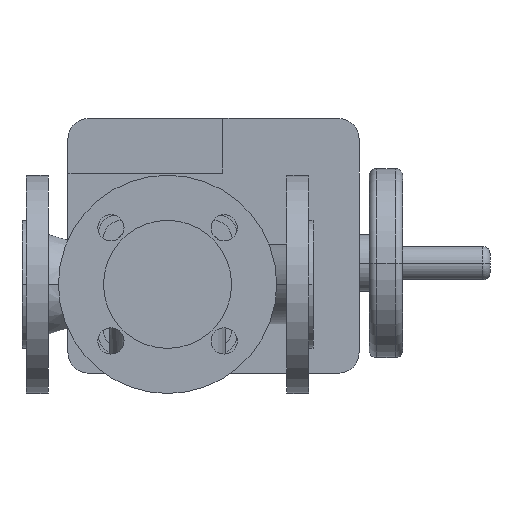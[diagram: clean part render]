
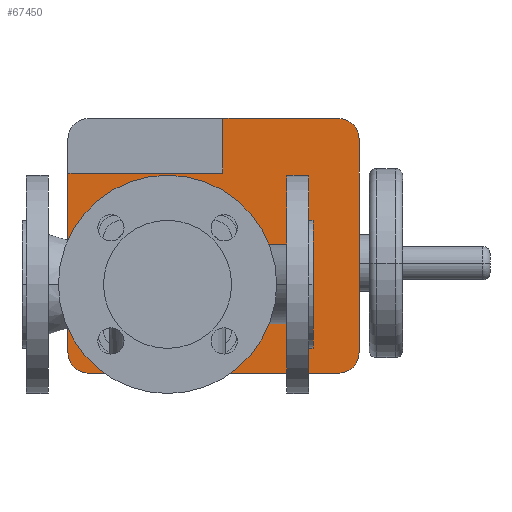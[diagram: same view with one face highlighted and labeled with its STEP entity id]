
A CAD part, front view. The second image highlights one B-rep face of the part: STEP entity #67450.
In plain terms, the highlighted planar face has unit normal (0, -1, 0).
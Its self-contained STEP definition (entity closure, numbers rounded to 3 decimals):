
#55600=CARTESIAN_POINT('',(45.6,584.5,-61.));
#55610=VERTEX_POINT('',#55600);
#55640=CARTESIAN_POINT('',(217.6,584.5,-61.));
#55650=DIRECTION('',(-1.,0.,0.));
#55660=VECTOR('',#55650,1.);
#55670=LINE('',#55640,#55660);
#55680=CARTESIAN_POINT('',(217.6,584.5,-61.));
#55690=VERTEX_POINT('',#55680);
#55700=EDGE_CURVE('',#55690,#55610,#55670,.T.);
#58430=CARTESIAN_POINT('',(217.6,584.5,114.));
#58440=VERTEX_POINT('',#58430);
#58470=CARTESIAN_POINT('',(45.6,584.5,114.));
#58480=DIRECTION('',(1.,0.,0.));
#58490=VECTOR('',#58480,1.);
#58500=LINE('',#58470,#58490);
#58510=CARTESIAN_POINT('',(138.1,584.5,114.));
#58520=VERTEX_POINT('',#58510);
#58530=EDGE_CURVE('',#58520,#58440,#58500,.T.);
#59030=CARTESIAN_POINT('',(217.6,584.5,-47.));
#59040=DIRECTION('',(0.,1.,0.));
#59050=DIRECTION('',(1.,0.,0.));
#59060=AXIS2_PLACEMENT_3D('',#59030,#59040,#59050);
#59070=CIRCLE('',#59060,14.);
#59080=CARTESIAN_POINT('',(231.6,584.5,-47.));
#59090=VERTEX_POINT('',#59080);
#59100=EDGE_CURVE('',#59090,#55690,#59070,.T.);
#61920=CARTESIAN_POINT('',(138.1,584.5,38.25));
#61930=DIRECTION('',(0.,0.,-1.));
#61940=VECTOR('',#61930,1.);
#61950=LINE('',#61920,#61940);
#61960=CARTESIAN_POINT('',(138.1,584.5,76.5));
#61970=VERTEX_POINT('',#61960);
#61980=EDGE_CURVE('',#58520,#61970,#61950,.T.);
#62890=CARTESIAN_POINT('',(47.058,584.5,49.002));
#62900=VERTEX_POINT('',#62890);
#62930=CARTESIAN_POINT('',(55.216,584.5,45.2));
#62940=DIRECTION('',(0.,1.,0.));
#62950=DIRECTION('',(-0.906,0.,0.422));
#62960=AXIS2_PLACEMENT_3D('',#62930,#62940,#62950);
#62970=CIRCLE('',#62960,9.);
#62980=CARTESIAN_POINT('',(55.216,584.5,54.2));
#62990=VERTEX_POINT('',#62980);
#63000=EDGE_CURVE('',#62900,#62990,#62970,.T.);
#63260=CARTESIAN_POINT('',(77.608,584.5,54.2));
#63270=DIRECTION('',(1.,0.,0.));
#63280=VECTOR('',#63270,1.);
#63290=LINE('',#63260,#63280);
#63300=CARTESIAN_POINT('',(144.784,584.5,54.2));
#63310=VERTEX_POINT('',#63300);
#63320=EDGE_CURVE('',#62990,#63310,#63290,.T.);
#63570=CARTESIAN_POINT('',(144.784,584.5,45.2));
#63580=DIRECTION('',(0.,1.,0.));
#63590=DIRECTION('',(0.,0.,1.));
#63600=AXIS2_PLACEMENT_3D('',#63570,#63580,#63590);
#63610=CIRCLE('',#63600,9.);
#63620=CARTESIAN_POINT('',(152.942,584.5,49.002));
#63630=VERTEX_POINT('',#63620);
#63640=EDGE_CURVE('',#63310,#63630,#63610,.T.);
#63900=CARTESIAN_POINT('',(47.8,584.5,0.)
);
#63910=DIRECTION('',(0.,1.,0.));
#63920=DIRECTION('',(0.906,0.,0.422));
#63930=AXIS2_PLACEMENT_3D('',#63900,#63910,#63920);
#63940=CIRCLE('',#63930,116.);
#63950=CARTESIAN_POINT('',(152.942,584.5,-49.002));
#63960=VERTEX_POINT('',#63950);
#63970=EDGE_CURVE('',#63630,#63960,#63940,.T.);
#64230=CARTESIAN_POINT('',(144.784,584.5,-45.2));
#64240=DIRECTION('',(0.,1.,0.));
#64250=DIRECTION('',(0.906,0.,-0.422));
#64260=AXIS2_PLACEMENT_3D('',#64230,#64240,#64250);
#64270=CIRCLE('',#64260,9.);
#64280=CARTESIAN_POINT('',(144.784,584.5,-54.2));
#64290=VERTEX_POINT('',#64280);
#64300=EDGE_CURVE('',#63960,#64290,#64270,.T.);
#64560=CARTESIAN_POINT('',(122.392,584.5,-54.2));
#64570=DIRECTION('',(-1.,0.,0.));
#64580=VECTOR('',#64570,1.);
#64590=LINE('',#64560,#64580);
#64600=CARTESIAN_POINT('',(55.216,584.5,-54.2));
#64610=VERTEX_POINT('',#64600);
#64620=EDGE_CURVE('',#64290,#64610,#64590,.T.);
#64870=CARTESIAN_POINT('',(55.216,584.5,-45.2));
#64880=DIRECTION('',(0.,1.,0.));
#64890=DIRECTION('',(0.,0.,-1.));
#64900=AXIS2_PLACEMENT_3D('',#64870,#64880,#64890);
#64910=CIRCLE('',#64900,9.);
#64920=CARTESIAN_POINT('',(47.058,584.5,-49.002));
#64930=VERTEX_POINT('',#64920);
#64940=EDGE_CURVE('',#64610,#64930,#64910,.T.);
#65200=CARTESIAN_POINT('',(152.2,584.5,0.));
#65210=DIRECTION('',(0.,1.,0.));
#65220=DIRECTION('',(-0.906,0.,-0.422));
#65230=AXIS2_PLACEMENT_3D('',#65200,#65210,#65220);
#65240=CIRCLE('',#65230,116.);
#65250=EDGE_CURVE('',#64930,#62900,#65240,.T.);
#65890=CARTESIAN_POINT('',(31.6,584.5,-47.));
#65900=DIRECTION('',(0.,0.,1.));
#65910=VECTOR('',#65900,1.);
#65920=LINE('',#65890,#65910);
#65930=CARTESIAN_POINT('',(31.6,584.5,-47.));
#65940=VERTEX_POINT('',#65930);
#65950=CARTESIAN_POINT('',(31.6,584.5,76.5));
#65960=VERTEX_POINT('',#65950);
#65970=EDGE_CURVE('',#65940,#65960,#65920,.T.);
#66420=CARTESIAN_POINT('',(231.6,584.5,100.));
#66430=DIRECTION('',(0.,0.,-1.));
#66440=VECTOR('',#66430,1.);
#66450=LINE('',#66420,#66440);
#66460=CARTESIAN_POINT('',(231.6,584.5,100.));
#66470=VERTEX_POINT('',#66460);
#66480=EDGE_CURVE('',#66470,#59090,#66450,.T.);
#66900=CARTESIAN_POINT('',(45.6,584.5,-47.));
#66910=DIRECTION('',(0.,1.,0.));
#66920=DIRECTION('',(0.,0.,-1.));
#66930=AXIS2_PLACEMENT_3D('',#66900,#66910,#66920);
#66940=CIRCLE('',#66930,14.);
#66950=EDGE_CURVE('',#55610,#65940,#66940,.T.);
#67080=CARTESIAN_POINT('',(100.,584.5,0.));
#67090=DIRECTION('',(0.,1.,0.));
#67100=DIRECTION('',(0.,0.,1.));
#67110=AXIS2_PLACEMENT_3D('',#67080,#67090,#67100);
#67120=PLANE('',#67110);
#67130=ORIENTED_EDGE('',*,*,#65250,.T.);
#67140=ORIENTED_EDGE('',*,*,#64940,.T.);
#67150=ORIENTED_EDGE('',*,*,#64620,.T.);
#67160=ORIENTED_EDGE('',*,*,#64300,.T.);
#67170=ORIENTED_EDGE('',*,*,#63970,.T.);
#67180=ORIENTED_EDGE('',*,*,#63640,.T.);
#67190=ORIENTED_EDGE('',*,*,#63320,.T.);
#67200=ORIENTED_EDGE('',*,*,#63000,.T.);
#67210=EDGE_LOOP('',(#67200,#67190,#67180,#67170,#67160,#67150,#67140,
#67130));
#67220=FACE_BOUND('',#67210,.T.);
#67230=ORIENTED_EDGE('',*,*,#61980,.T.);
#67240=ORIENTED_EDGE('',*,*,#58530,.F.);
#67250=CARTESIAN_POINT('',(217.6,584.5,100.));
#67260=DIRECTION('',(0.,1.,0.));
#67270=DIRECTION('',(0.,0.,1.));
#67280=AXIS2_PLACEMENT_3D('',#67250,#67260,#67270);
#67290=CIRCLE('',#67280,14.);
#67300=EDGE_CURVE('',#58440,#66470,#67290,.T.);
#67310=ORIENTED_EDGE('',*,*,#67300,.F.);
#67320=ORIENTED_EDGE('',*,*,#66480,.F.);
#67330=ORIENTED_EDGE('',*,*,#59100,.F.);
#67340=ORIENTED_EDGE('',*,*,#55700,.F.);
#67350=ORIENTED_EDGE('',*,*,#66950,.F.);
#67360=ORIENTED_EDGE('',*,*,#65970,.F.);
#67370=CARTESIAN_POINT('',(65.3,584.5,76.5));
#67380=DIRECTION('',(-1.,0.,0.));
#67390=VECTOR('',#67380,1.);
#67400=LINE('',#67370,#67390);
#67410=EDGE_CURVE('',#61970,#65960,#67400,.T.);
#67420=ORIENTED_EDGE('',*,*,#67410,.T.);
#67430=EDGE_LOOP('',(#67420,#67360,#67350,#67340,#67330,#67320,#67310,
#67240,#67230));
#67440=FACE_OUTER_BOUND('',#67430,.T.);
#67450=ADVANCED_FACE('',(#67220,#67440),#67120,.F.);
